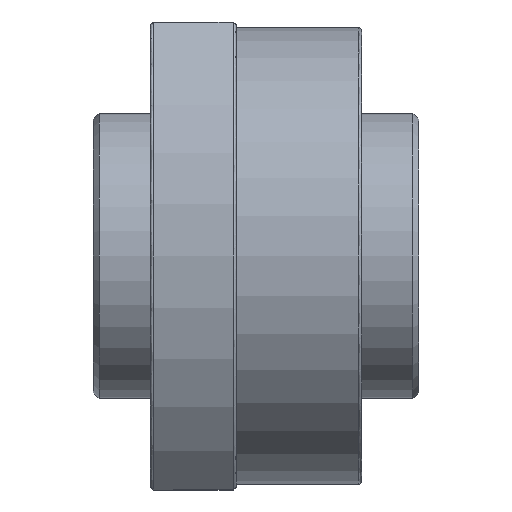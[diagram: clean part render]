
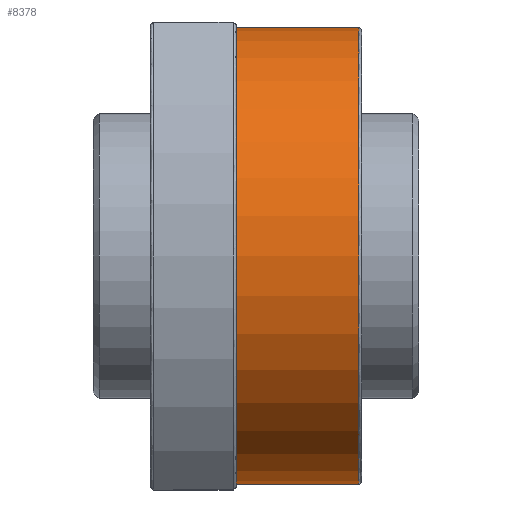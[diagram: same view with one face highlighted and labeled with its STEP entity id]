
A CAD part, front view. The second image highlights one B-rep face of the part: STEP entity #8378.
In plain terms, the highlighted cylindrical face has radius 40 mm (diameter 80 mm), a partial arc.
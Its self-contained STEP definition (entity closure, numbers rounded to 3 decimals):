
#103 = ORIENTED_EDGE ( 'NONE', *, *, #6578, .T. ) ;
#280 = LINE ( 'NONE', #8381, #1526 ) ;
#288 = VERTEX_POINT ( 'NONE', #4826 ) ;
#332 = DIRECTION ( 'NONE',  ( -1., 0., 0. ) ) ;
#666 = VERTEX_POINT ( 'NONE', #9024 ) ;
#1255 = DIRECTION ( 'NONE',  ( 0., 0., 1. ) ) ;
#1526 = VECTOR ( 'NONE', #7279, 1000. ) ;
#2019 = CARTESIAN_POINT ( 'NONE',  ( 36.5, 0., 40. ) ) ;
#2162 = VECTOR ( 'NONE', #3040, 1000. ) ;
#2477 = LINE ( 'NONE', #6907, #2162 ) ;
#2738 = CIRCLE ( 'NONE', #3383, 40. ) ;
#2750 = ORIENTED_EDGE ( 'NONE', *, *, #12265, .F. ) ;
#3040 = DIRECTION ( 'NONE',  ( -1., 0., 0. ) ) ;
#3234 = DIRECTION ( 'NONE',  ( -1., 0., 0. ) ) ;
#3383 = AXIS2_PLACEMENT_3D ( 'NONE', #4140, #12526, #9743 ) ;
#4140 = CARTESIAN_POINT ( 'NONE',  ( 36.5, 0., 0. ) ) ;
#4583 = ORIENTED_EDGE ( 'NONE', *, *, #10732, .F. ) ;
#4826 = CARTESIAN_POINT ( 'NONE',  ( 15., 0., 40. ) ) ;
#5779 = EDGE_CURVE ( 'NONE', #12141, #288, #280, .T. ) ;
#5990 = EDGE_LOOP ( 'NONE', ( #4583, #103, #9669, #2750 ) ) ;
#6578 = EDGE_CURVE ( 'NONE', #10623, #12141, #2738, .T. ) ;
#6668 = CYLINDRICAL_SURFACE ( 'NONE', #12084, 40. ) ;
#6756 = AXIS2_PLACEMENT_3D ( 'NONE', #7123, #332, #8131 ) ;
#6777 = CARTESIAN_POINT ( 'NONE',  ( 36.5, 0., -40. ) ) ;
#6907 = CARTESIAN_POINT ( 'NONE',  ( 37., 0., -40. ) ) ;
#7123 = CARTESIAN_POINT ( 'NONE',  ( 15., 0., 0. ) ) ;
#7279 = DIRECTION ( 'NONE',  ( -1., 0., 0. ) ) ;
#8131 = DIRECTION ( 'NONE',  ( 0., 0., 1. ) ) ;
#8378 = ADVANCED_FACE ( 'NONE', ( #11236 ), #6668, .T. ) ;
#8381 = CARTESIAN_POINT ( 'NONE',  ( 37., 0., 40. ) ) ;
#9024 = CARTESIAN_POINT ( 'NONE',  ( 15., 0., -40. ) ) ;
#9669 = ORIENTED_EDGE ( 'NONE', *, *, #5779, .T. ) ;
#9743 = DIRECTION ( 'NONE',  ( 0., 0., 1. ) ) ;
#10623 = VERTEX_POINT ( 'NONE', #6777 ) ;
#10732 = EDGE_CURVE ( 'NONE', #10623, #666, #2477, .T. ) ;
#11236 = FACE_OUTER_BOUND ( 'NONE', #5990, .T. ) ;
#11938 = CARTESIAN_POINT ( 'NONE',  ( 37., 0., 0. ) ) ;
#12084 = AXIS2_PLACEMENT_3D ( 'NONE', #11938, #3234, #1255 ) ;
#12141 = VERTEX_POINT ( 'NONE', #2019 ) ;
#12265 = EDGE_CURVE ( 'NONE', #666, #288, #12345, .T. ) ;
#12345 = CIRCLE ( 'NONE', #6756, 40. ) ;
#12526 = DIRECTION ( 'NONE',  ( -1., 0., 0. ) ) ;
